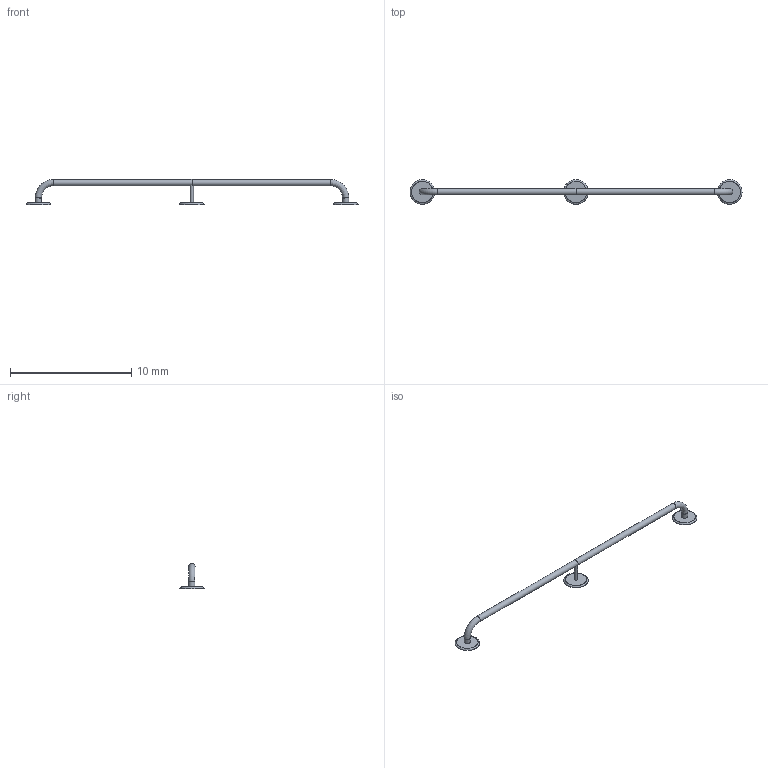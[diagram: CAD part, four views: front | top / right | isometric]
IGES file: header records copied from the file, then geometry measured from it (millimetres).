
Start section: IGES file generated from a XCAD drawing
Global section: file name: C:\Documents and Settings\Bill Harris\Desktop\UPLOADS\handles\ssmetal.igs; native system: XCAD 3.1; preprocessor: XCAD IGES Translator v1.0; author: NONAME; organization: nautika watercraft; date: 1060817.150318; units: inch
Bounding box: 27.43 x 2.03 x 2.07 mm (x, y, z)
Surface area: 57.4 mm2 (no closed solid volume)
Topology: 0 solids, 0 shells, 13 faces, 39 edges, 26 vertices
Faces by surface type: bspline 13
